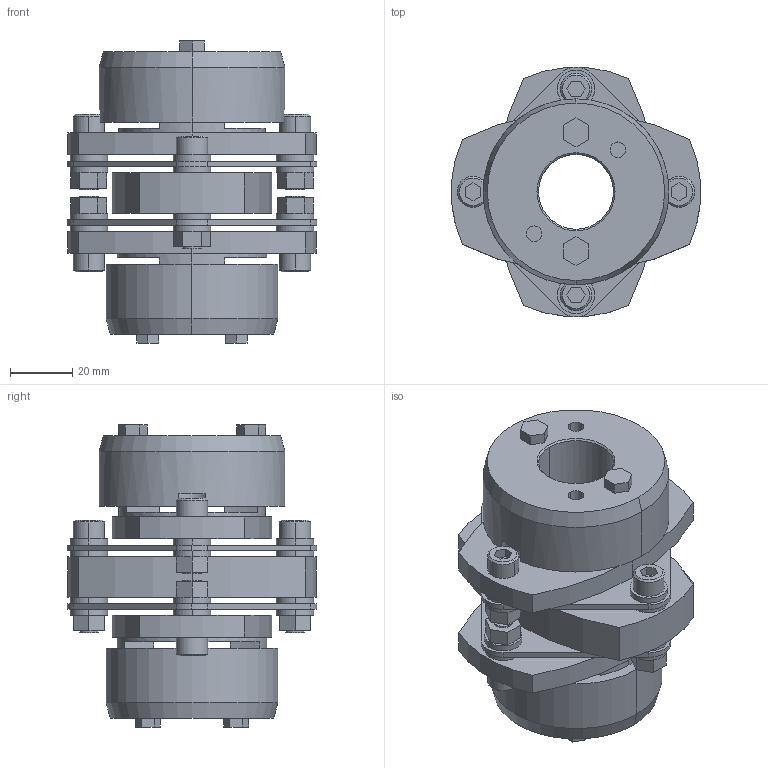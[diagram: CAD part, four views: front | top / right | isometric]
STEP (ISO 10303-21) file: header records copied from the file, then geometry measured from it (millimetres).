
FILE_DESCRIPTION((''),'2;1');
FILE_NAME('LCD-80T7-24×28.stp','2011-09-15T15:44:42',(''),(''),'AutoCAD STEP 2000i','AutoCAD 2000i',', , ');
FILE_SCHEMA(('CONFIG_CONTROL_DESIGN'));
Length unit declared in the file: millimetre
Products named in the file (11): LCD-80T7-24×28; 忣兜1; LC80T7-T028; LC80T7-T024-1; LC80T7-T024; LC80T7-T022; LC80T7-T019-1; LC80T7-T019; LC80T7-T017-1; LC80T7-T017; LCD80-ITA
Assembly tree (10 placements, depth 2):
  LCD-80T7-24×28
    忣兜1
    LC80T7-T028
    LC80T7-T024-1
    LC80T7-T024
    LC80T7-T022
    LC80T7-T019-1
    LC80T7-T019
    LC80T7-T017-1
    LC80T7-T017
    LCD80-ITA
Bounding box: 80 x 79.95 x 96.8 mm (x, y, z)
Volume: 186936.4 mm3; surface area: 58497.8 mm2
Topology: 1 solids, 1 shells, 324 faces, 792 edges, 520 vertices
Faces by surface type: plane 178, cylinder 122, cone 24
Entity records: 9859 total; most frequent: DIRECTION 1750, CARTESIAN_POINT 1647, ORIENTED_EDGE 1584, EDGE_CURVE 792, AXIS2_PLACEMENT_3D 623, VERTEX_POINT 520, VECTOR 504, LINE 504
